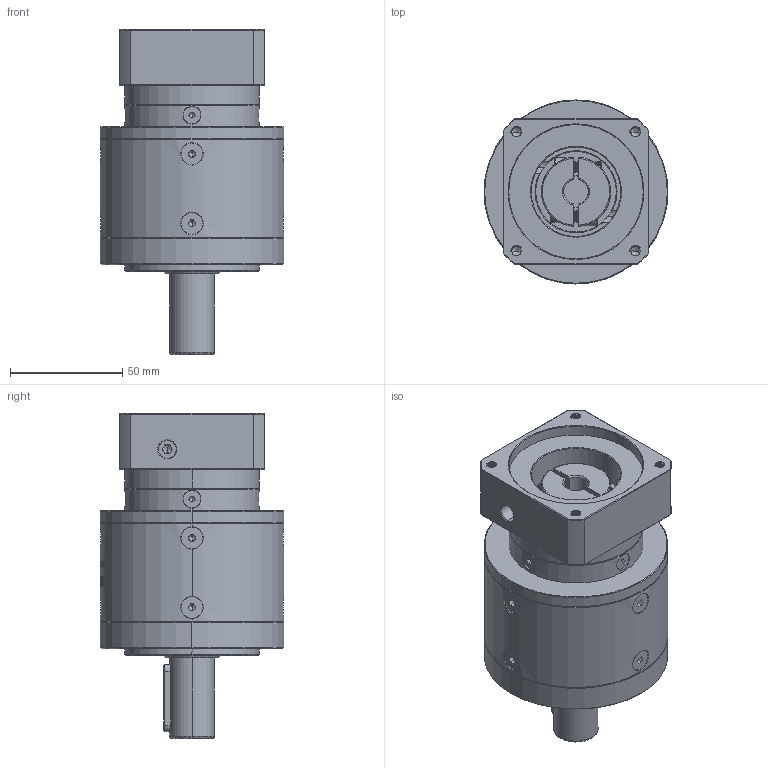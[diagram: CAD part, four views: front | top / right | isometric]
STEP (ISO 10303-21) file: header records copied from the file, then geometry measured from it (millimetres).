
FILE_DESCRIPTION (( 'STEP AP214' ), '1' );
FILE_NAME ('ZE80-D20-L2-11-60-75-M5.step', '2022-05-08T05:59:34', ( '' ), ( 'Microsoft' ), 'SwSTEP 2.0', 'SolidWorks 2016', '' );
FILE_SCHEMA (( 'AUTOMOTIVE_DESIGN' ));
Length unit declared in the file: millimetre
Products named in the file (1): ZE80-D20-L2-11-60-75-M5
Bounding box: 82 x 82 x 145 mm (x, y, z)
Volume: 456630.9 mm3; surface area: 66973.6 mm2
Topology: 18 solids, 18 shells, 2132 faces, 5601 edges, 3561 vertices
Faces by surface type: plane 948, cylinder 517, bspline 340, cone 313, torus 14
Entity records: 121640 total; most frequent: CARTESIAN_POINT 49850, ORIENTED_EDGE 11110, DIRECTION 8642, EDGE_CURVE 5555, VERTEX_POINT 3561, LINE 2970, VECTOR 2970, AXIS2_PLACEMENT_3D 2836
